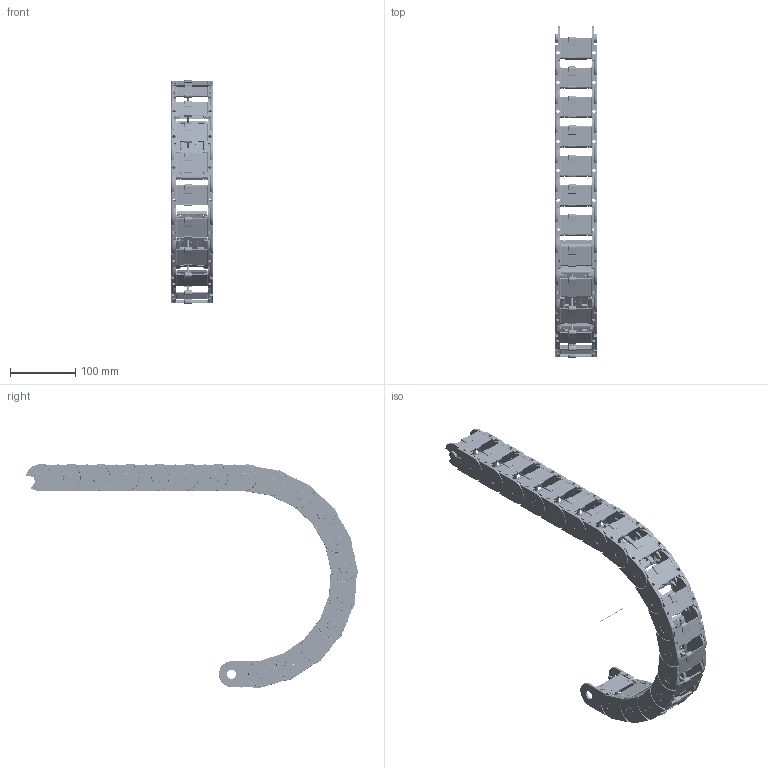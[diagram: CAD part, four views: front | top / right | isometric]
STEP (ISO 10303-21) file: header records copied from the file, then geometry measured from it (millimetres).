
FILE_DESCRIPTION((''),'2;1');
FILE_NAME('C:\Uebbing\PARAMETERKETTEN\KOLIBRI\Kol_40_062_2\Kol_40_062_2_R150.stp','2012-03-05T13:23:20',('Uebbing'),(''),'Autodesk Inventor 10','Autodesk Inventor 10','');
FILE_SCHEMA(('AUTOMOTIVE_DESIGN { 1 0 10303 214 1 1 1 1 }'));
Length unit declared in the file: millimetre
Products named in the file (6): KOLIBRI 40_062_2_PARAMETRISCH; Achse; Kol_40_062_2; Kol_40_062_2_PZ; Kol_40_062_2_Klappsteg
Assembly tree (22 placements, depth 3):
  KOLIBRI 40_062_2_PARAMETRISCH
    Achse
    Kol_40_062_2  x18
      Kol_40_062_2_PZ
      Kol_40_062_2
      Kol_40_062_2_Klappsteg
Bounding box: 63 x 507.22 x 342.97 mm (x, y, z)
Volume: 630494.9 mm3; surface area: 460665.9 mm2
Topology: 55 solids, 181 shells, 19587 faces, 51880 edges, 33537 vertices
Faces by surface type: bspline 8334, plane 7472, cylinder 3133, torus 396, sphere 180, cone 72
Full cylindrical faces by diameter (mm): 1 x1, 1.609 x18, 2.825 x18, 3.4 x72, 3.5 x36, 4 x72, 5 x18, 6 x18, 14 x18, 14.1 x18
Entity records: 38387 total; most frequent: CARTESIAN_POINT 13158, ORIENTED_EDGE 5674, DIRECTION 4303, EDGE_CURVE 2837, VERTEX_POINT 1853, VECTOR 1759, LINE 1759, AXIS2_PLACEMENT_3D 1272
